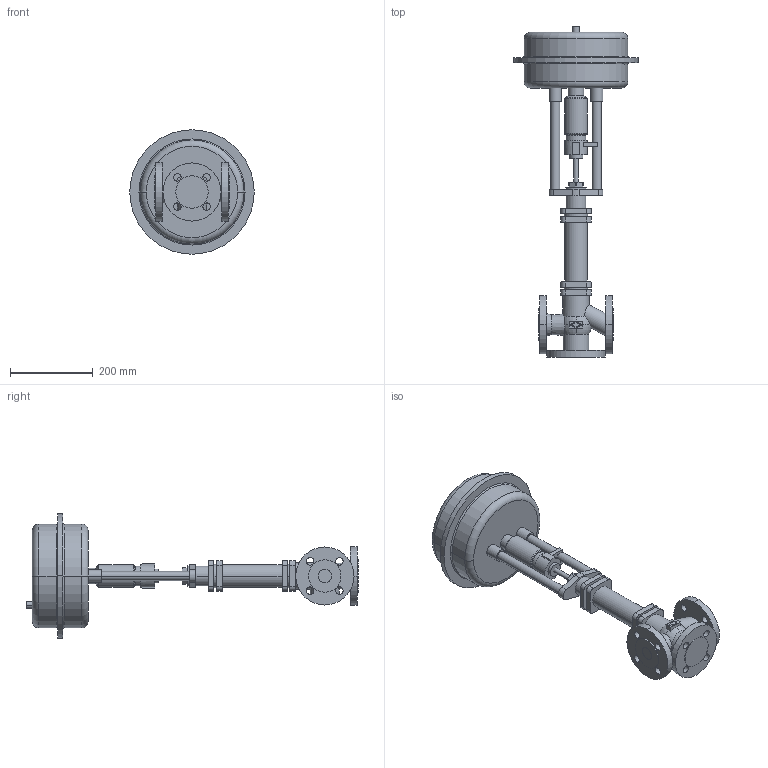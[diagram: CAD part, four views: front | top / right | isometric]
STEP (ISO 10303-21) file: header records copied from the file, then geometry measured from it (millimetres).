
FILE_DESCRIPTION(('OneSpaceDesigner STEP Export'),'2;1');
FILE_NAME('c000000755.stp','2006-09-21T 8:45:09',(''),(''),'OneSpace Designer STEP processor for AP214 (Solid Model)','OneSpace Designer 13.20A 18-Aug-2005 (C) CoCreate Software GmbH','');
FILE_SCHEMA(('AUTOMOTIVE_DESIGN { 1 0 10303 214 1 1 1 1 }'));
Length unit declared in the file: millimetre
Products named in the file (2): 1; 2
Bounding box: 300 x 800.6 x 300 mm (x, y, z)
Volume: 9545155.1 mm3; surface area: 546345.4 mm2
Topology: 2 solids, 2 shells, 240 faces, 594 edges, 391 vertices
Faces by surface type: cylinder 114, plane 96, torus 22, cone 8
Entity records: 6735 total; most frequent: CARTESIAN_POINT 1407, ORIENTED_EDGE 1188, DIRECTION 990, EDGE_CURVE 594, VERTEX_POINT 391, AXIS2_PLACEMENT_3D 358, EDGE_LOOP 297, VECTOR 274
